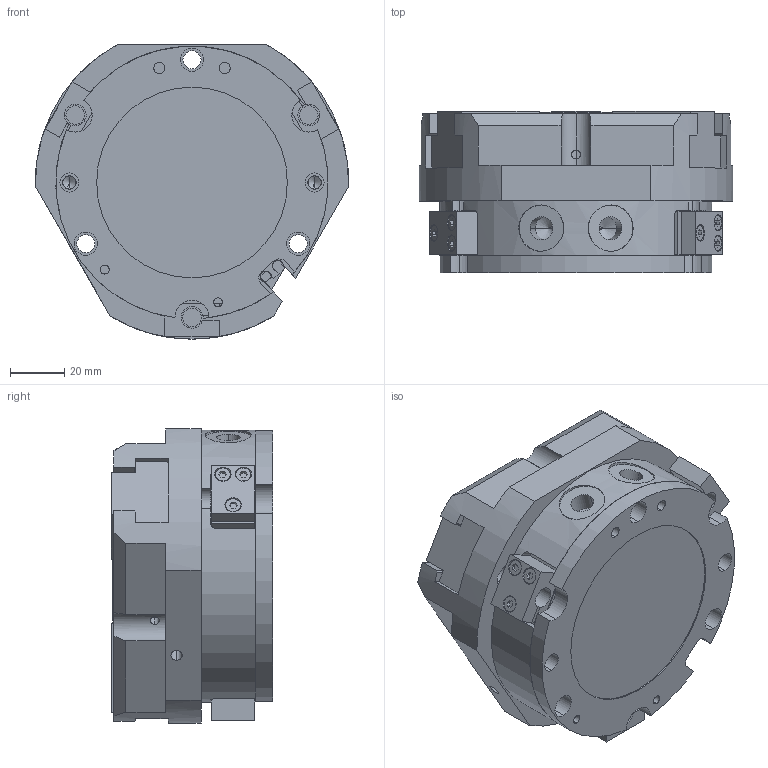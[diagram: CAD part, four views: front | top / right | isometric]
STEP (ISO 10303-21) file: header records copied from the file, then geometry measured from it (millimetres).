
FILE_DESCRIPTION (( 'STEP AP214' ), '1' );
FILE_NAME ('TZ8-100.STEP', '2025-10-23T10:57:31', ( '' ), ( '' ), 'SwSTEP 2.0', 'SolidWorks 2024', '' );
FILE_SCHEMA (( 'AUTOMOTIVE_DESIGN' ));
Length unit declared in the file: millimetre
Products named in the file (8): 105-TZ8-100; 1000-TZ8-100; 101-TZ8-100; 102-TZ8-100; 100-TZ8-100; 104-TZ8-100; 103-TZ8-100; TZ8-100
Assembly tree (11 placements, depth 3):
  TZ8-100
    1000-TZ8-100
      100-TZ8-100
      101-TZ8-100  x3
      102-TZ8-100
      103-TZ8-100
      104-TZ8-100  x3
      105-TZ8-100
Bounding box: 114.96 x 59.3 x 108 mm (x, y, z)
Volume: 458029.1 mm3; surface area: 97708.8 mm2
Topology: 10 solids, 10 shells, 583 faces, 1480 edges, 937 vertices
Faces by surface type: plane 286, cylinder 217, cone 80
Entity records: 13372 total; most frequent: CARTESIAN_POINT 2975, DIRECTION 2200, ORIENTED_EDGE 2060, EDGE_CURVE 1030, AXIS2_PLACEMENT_3D 808, VERTEX_POINT 673, LINE 584, VECTOR 584
